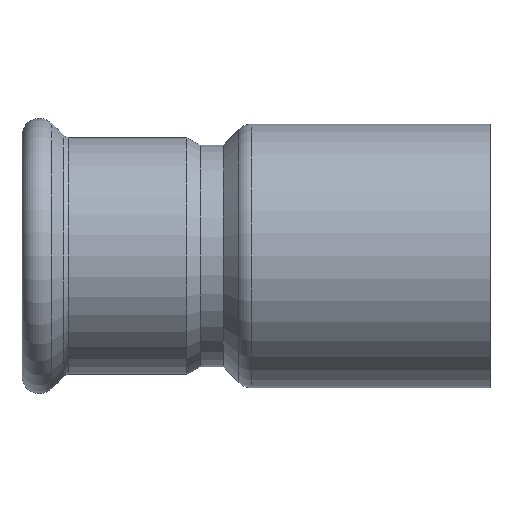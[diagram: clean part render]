
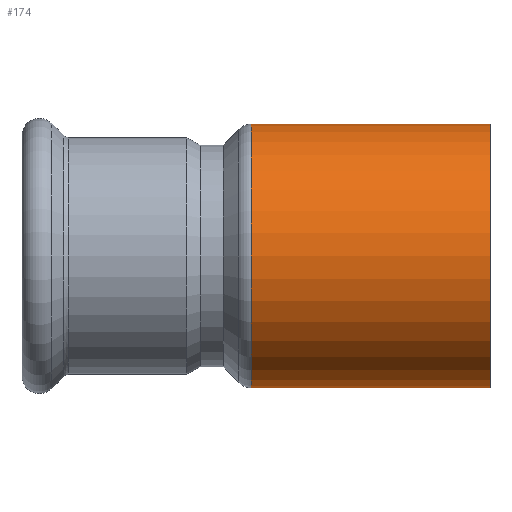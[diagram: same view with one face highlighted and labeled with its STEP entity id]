
A CAD part, front view. The second image highlights one B-rep face of the part: STEP entity #174.
In plain terms, the highlighted cylindrical face has radius 38.05 mm (diameter 76.1 mm), a full revolution.
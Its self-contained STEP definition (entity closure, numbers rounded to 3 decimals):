
#123=CARTESIAN_POINT('',(-68.879,38.05,0.));
#124=VERTEX_POINT('',#123);
#125=CARTESIAN_POINT('',(-68.879,0.0,0.0));
#126=DIRECTION('',(-1.0,0.0,0.0));
#127=DIRECTION('',(0.0,-1.0,0.0));
#128=AXIS2_PLACEMENT_3D('',#125,#126,#127);
#129=CIRCLE('',#128,38.05);
#130=EDGE_CURVE('',#124,#124,#129,.T.);
#155=CARTESIAN_POINT('',(-35.475,0.0,0.0));
#156=DIRECTION('',(1.0,0.0,0.0));
#157=DIRECTION('',(0.0,1.0,0.0));
#158=AXIS2_PLACEMENT_3D('',#155,#156,#157);
#159=CYLINDRICAL_SURFACE('',#158,38.05);
#160=CARTESIAN_POINT('',(0.,38.05,0.0));
#161=VERTEX_POINT('',#160);
#162=CARTESIAN_POINT('',(0.,0.0,0.0));
#163=DIRECTION('',(1.0,0.0,0.0));
#164=DIRECTION('',(0.0,1.0,0.0));
#165=AXIS2_PLACEMENT_3D('',#162,#163,#164);
#166=CIRCLE('',#165,38.05);
#167=EDGE_CURVE('',#161,#161,#166,.T.);
#168=ORIENTED_EDGE('',*,*,#167,.F.);
#169=EDGE_LOOP('',(#168));
#170=FACE_OUTER_BOUND('',#169,.T.);
#171=ORIENTED_EDGE('',*,*,#130,.F.);
#172=EDGE_LOOP('',(#171));
#173=FACE_BOUND('',#172,.T.);
#174=ADVANCED_FACE('',(#170,#173),#159,.T.);
